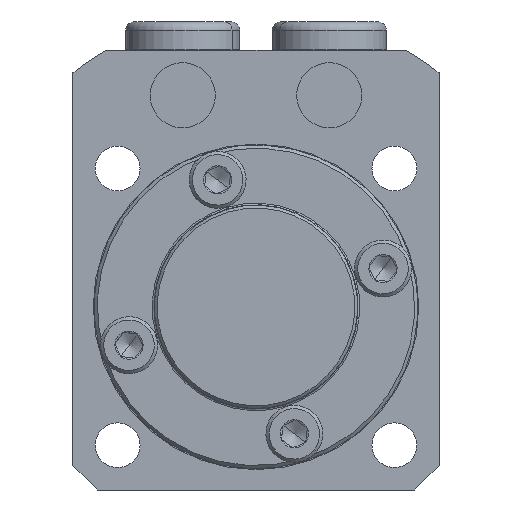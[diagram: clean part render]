
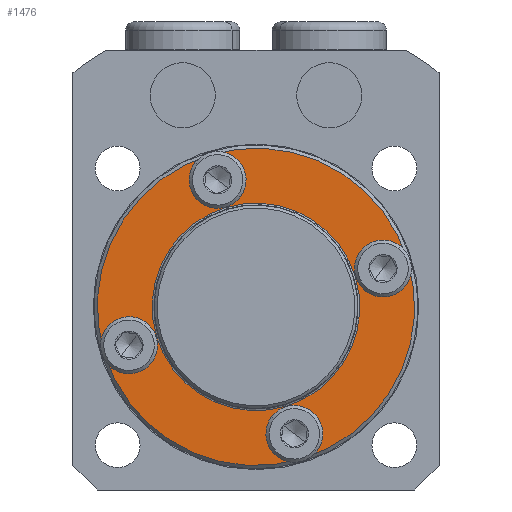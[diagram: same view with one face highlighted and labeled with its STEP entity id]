
A CAD part, front view. The second image highlights one B-rep face of the part: STEP entity #1476.
In plain terms, the highlighted planar face has unit normal (0, -1, 0).
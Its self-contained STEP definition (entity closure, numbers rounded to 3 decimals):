
#57 = VERTEX_POINT ( 'NONE', #2477 ) ;
#942 = CARTESIAN_POINT ( 'NONE',  ( 0., -4., 19.5 ) ) ;
#1476 = ADVANCED_FACE ( 'NONE', ( #4334, #4336, #4338, #4340, #4333, #4335 ), #4342, .F. ) ;
#1817 = CARTESIAN_POINT ( 'NONE',  ( 0., -4., 18.55 ) ) ;
#1818 = CARTESIAN_POINT ( 'NONE',  ( 0., -4., 14.05 ) ) ;
#1819 = CARTESIAN_POINT ( 'NONE',  ( -16.3, -4., -2.25 ) ) ;
#1821 = CARTESIAN_POINT ( 'NONE',  ( -16.3, -4., 2.25 ) ) ;
#1853 = CARTESIAN_POINT ( 'NONE',  ( 0., -4., -18.55 ) ) ;
#1854 = CARTESIAN_POINT ( 'NONE',  ( 0., -4., -14.05 ) ) ;
#1857 = CARTESIAN_POINT ( 'NONE',  ( 16.3, -4., -2.25 ) ) ;
#1858 = CARTESIAN_POINT ( 'NONE',  ( 16.3, -4., 2.25 ) ) ;
#1868 = CARTESIAN_POINT ( 'NONE',  ( 0., -4., -19.5 ) ) ;
#1873 = CARTESIAN_POINT ( 'NONE',  ( 0., -4., 12.75 ) ) ;
#1894 = CARTESIAN_POINT ( 'NONE',  ( 16.3, -4., 0. ) ) ;
#1895 = DIRECTION ( 'NONE',  ( 0., -1., 0. ) ) ;
#1896 = DIRECTION ( 'NONE',  ( -1., 0., 0. ) ) ;
#1906 = CARTESIAN_POINT ( 'NONE',  ( 0., -4., -16.3 ) ) ;
#1907 = DIRECTION ( 'NONE',  ( 0., -1., 0. ) ) ;
#1908 = DIRECTION ( 'NONE',  ( 0., 0., 1. ) ) ;
#1918 = CARTESIAN_POINT ( 'NONE',  ( -16.3, -4., 0. ) ) ;
#1919 = DIRECTION ( 'NONE',  ( 0., -1., 0. ) ) ;
#1920 = DIRECTION ( 'NONE',  ( 1., 0., 0. ) ) ;
#1931 = CARTESIAN_POINT ( 'NONE',  ( 0., -4., 16.3 ) ) ;
#1932 = DIRECTION ( 'NONE',  ( 0., -1., 0. ) ) ;
#1933 = DIRECTION ( 'NONE',  ( 0., 0., -1. ) ) ;
#1949 = CARTESIAN_POINT ( 'NONE',  ( 0., -4., 0. ) ) ;
#1950 = DIRECTION ( 'NONE',  ( 0., 1., 0. ) ) ;
#1951 = DIRECTION ( 'NONE',  ( 0., 0., 1. ) ) ;
#1952 = CARTESIAN_POINT ( 'NONE',  ( 0., -4., 0. ) ) ;
#1953 = DIRECTION ( 'NONE',  ( 0., -1., 0. ) ) ;
#1954 = DIRECTION ( 'NONE',  ( 0., 0., 1. ) ) ;
#1955 = CARTESIAN_POINT ( 'NONE',  ( 16.3, -4., 0. ) ) ;
#1956 = DIRECTION ( 'NONE',  ( 0., -1., 0. ) ) ;
#1957 = DIRECTION ( 'NONE',  ( -1., 0., 0. ) ) ;
#1958 = CARTESIAN_POINT ( 'NONE',  ( 0., -4., -16.3 ) ) ;
#1959 = DIRECTION ( 'NONE',  ( 0., -1., 0. ) ) ;
#1960 = DIRECTION ( 'NONE',  ( 0., 0., 1. ) ) ;
#1961 = CARTESIAN_POINT ( 'NONE',  ( -16.3, -4., 0. ) ) ;
#1962 = DIRECTION ( 'NONE',  ( 0., -1., 0. ) ) ;
#1963 = DIRECTION ( 'NONE',  ( 1., 0., 0. ) ) ;
#1964 = CARTESIAN_POINT ( 'NONE',  ( 0., -4., 16.3 ) ) ;
#1965 = DIRECTION ( 'NONE',  ( 0., -1., 0. ) ) ;
#1966 = DIRECTION ( 'NONE',  ( 0., 0., -1. ) ) ;
#2192 = ORIENTED_EDGE ( 'NONE', *, *, #3199, .T. ) ;
#2193 = ORIENTED_EDGE ( 'NONE', *, *, #4170, .T. ) ;
#2194 = ORIENTED_EDGE ( 'NONE', *, *, #3200, .T. ) ;
#2195 = ORIENTED_EDGE ( 'NONE', *, *, #4177, .T. ) ;
#2196 = ORIENTED_EDGE ( 'NONE', *, *, #3201, .F. ) ;
#2197 = ORIENTED_EDGE ( 'NONE', *, *, #3180, .F. ) ;
#2198 = ORIENTED_EDGE ( 'NONE', *, *, #3202, .F. ) ;
#2199 = ORIENTED_EDGE ( 'NONE', *, *, #3184, .F. ) ;
#2200 = ORIENTED_EDGE ( 'NONE', *, *, #3203, .F. ) ;
#2201 = ORIENTED_EDGE ( 'NONE', *, *, #3188, .F. ) ;
#2202 = ORIENTED_EDGE ( 'NONE', *, *, #3204, .F. ) ;
#2203 = ORIENTED_EDGE ( 'NONE', *, *, #3192, .F. ) ;
#2427 = EDGE_LOOP ( 'NONE', ( #2200, #2201 ) ) ;
#2428 = EDGE_LOOP ( 'NONE', ( #2192, #2193 ) ) ;
#2433 = EDGE_LOOP ( 'NONE', ( #2202, #2203 ) ) ;
#2440 = EDGE_LOOP ( 'NONE', ( #2194, #2195 ) ) ;
#2441 = EDGE_LOOP ( 'NONE', ( #2198, #2199 ) ) ;
#2442 = EDGE_LOOP ( 'NONE', ( #2196, #2197 ) ) ;
#2477 = CARTESIAN_POINT ( 'NONE',  ( 0., -4., -12.75 ) ) ;
#2590 = VERTEX_POINT ( 'NONE', #1817 ) ;
#2591 = VERTEX_POINT ( 'NONE', #1818 ) ;
#2592 = VERTEX_POINT ( 'NONE', #1819 ) ;
#2594 = VERTEX_POINT ( 'NONE', #1821 ) ;
#2626 = VERTEX_POINT ( 'NONE', #1853 ) ;
#2627 = VERTEX_POINT ( 'NONE', #1854 ) ;
#2630 = VERTEX_POINT ( 'NONE', #1857 ) ;
#2631 = VERTEX_POINT ( 'NONE', #1858 ) ;
#2641 = VERTEX_POINT ( 'NONE', #1868 ) ;
#2646 = VERTEX_POINT ( 'NONE', #1873 ) ;
#3180 = EDGE_CURVE ( 'NONE', #2631, #2630, #4819, .T. ) ;
#3184 = EDGE_CURVE ( 'NONE', #2627, #2626, #4827, .T. ) ;
#3188 = EDGE_CURVE ( 'NONE', #2594, #2592, #4833, .T. ) ;
#3192 = EDGE_CURVE ( 'NONE', #2590, #2591, #4839, .T. ) ;
#3199 = EDGE_CURVE ( 'NONE', #2646, #57, #4848, .T. ) ;
#3200 = EDGE_CURVE ( 'NONE', #5412, #2641, #4850, .T. ) ;
#3201 = EDGE_CURVE ( 'NONE', #2630, #2631, #4851, .T. ) ;
#3202 = EDGE_CURVE ( 'NONE', #2626, #2627, #4855, .T. ) ;
#3203 = EDGE_CURVE ( 'NONE', #2592, #2594, #4857, .T. ) ;
#3204 = EDGE_CURVE ( 'NONE', #2591, #2590, #4859, .T. ) ;
#3446 = CARTESIAN_POINT ( 'NONE',  ( 0., -4., 0. ) ) ;
#3447 = DIRECTION ( 'NONE',  ( 0., 1., 0. ) ) ;
#3448 = DIRECTION ( 'NONE',  ( 0., 0., 1. ) ) ;
#3470 = CARTESIAN_POINT ( 'NONE',  ( 0., -4., 0. ) ) ;
#3471 = DIRECTION ( 'NONE',  ( 0., -1., 0. ) ) ;
#3472 = DIRECTION ( 'NONE',  ( 0., 0., 1. ) ) ;
#3854 = AXIS2_PLACEMENT_3D ( 'NONE', #4339, #4343, #4344 ) ;
#4170 = EDGE_CURVE ( 'NONE', #57, #2646, #4974, .T. ) ;
#4177 = EDGE_CURVE ( 'NONE', #2641, #5412, #4989, .T. ) ;
#4333 = FACE_BOUND ( 'NONE', #2427, .T. ) ;
#4334 = FACE_BOUND ( 'NONE', #2428, .T. ) ;
#4335 = FACE_BOUND ( 'NONE', #2433, .T. ) ;
#4336 = FACE_OUTER_BOUND ( 'NONE', #2440, .T. ) ;
#4338 = FACE_BOUND ( 'NONE', #2442, .T. ) ;
#4339 = CARTESIAN_POINT ( 'NONE',  ( 0., -4., 0. ) ) ;
#4340 = FACE_BOUND ( 'NONE', #2441, .T. ) ;
#4342 = PLANE ( 'NONE',  #3854 ) ;
#4343 = DIRECTION ( 'NONE',  ( 0., 1., 0. ) ) ;
#4344 = DIRECTION ( 'NONE',  ( 0., 0., 1. ) ) ;
#4819 = CIRCLE ( 'NONE', #4825, 2.25 ) ;
#4825 = AXIS2_PLACEMENT_3D ( 'NONE', #1894, #1895, #1896 ) ;
#4827 = CIRCLE ( 'NONE', #4831, 2.25 ) ;
#4831 = AXIS2_PLACEMENT_3D ( 'NONE', #1906, #1907, #1908 ) ;
#4833 = CIRCLE ( 'NONE', #4837, 2.25 ) ;
#4837 = AXIS2_PLACEMENT_3D ( 'NONE', #1918, #1919, #1920 ) ;
#4839 = CIRCLE ( 'NONE', #4843, 2.25 ) ;
#4843 = AXIS2_PLACEMENT_3D ( 'NONE', #1931, #1932, #1933 ) ;
#4848 = CIRCLE ( 'NONE', #4852, 12.75 ) ;
#4850 = CIRCLE ( 'NONE', #4854, 19.5 ) ;
#4851 = CIRCLE ( 'NONE', #4856, 2.25 ) ;
#4852 = AXIS2_PLACEMENT_3D ( 'NONE', #1949, #1950, #1951 ) ;
#4854 = AXIS2_PLACEMENT_3D ( 'NONE', #1952, #1953, #1954 ) ;
#4855 = CIRCLE ( 'NONE', #4858, 2.25 ) ;
#4856 = AXIS2_PLACEMENT_3D ( 'NONE', #1955, #1956, #1957 ) ;
#4857 = CIRCLE ( 'NONE', #4860, 2.25 ) ;
#4858 = AXIS2_PLACEMENT_3D ( 'NONE', #1958, #1959, #1960 ) ;
#4859 = CIRCLE ( 'NONE', #4862, 2.25 ) ;
#4860 = AXIS2_PLACEMENT_3D ( 'NONE', #1961, #1962, #1963 ) ;
#4862 = AXIS2_PLACEMENT_3D ( 'NONE', #1964, #1965, #1966 ) ;
#4974 = CIRCLE ( 'NONE', #4979, 12.75 ) ;
#4979 = AXIS2_PLACEMENT_3D ( 'NONE', #3446, #3447, #3448 ) ;
#4989 = CIRCLE ( 'NONE', #4991, 19.5 ) ;
#4991 = AXIS2_PLACEMENT_3D ( 'NONE', #3470, #3471, #3472 ) ;
#5412 = VERTEX_POINT ( 'NONE', #942 ) ;
